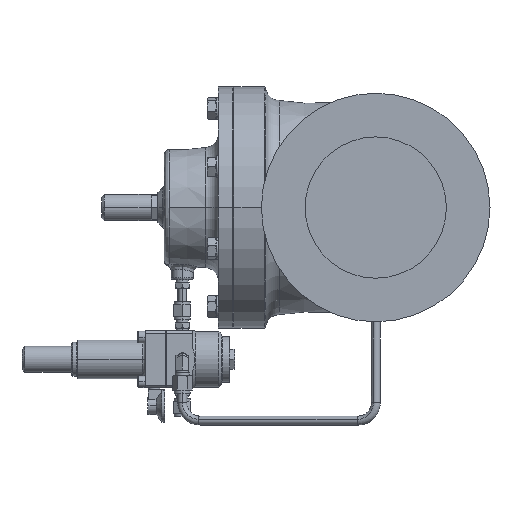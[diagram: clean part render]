
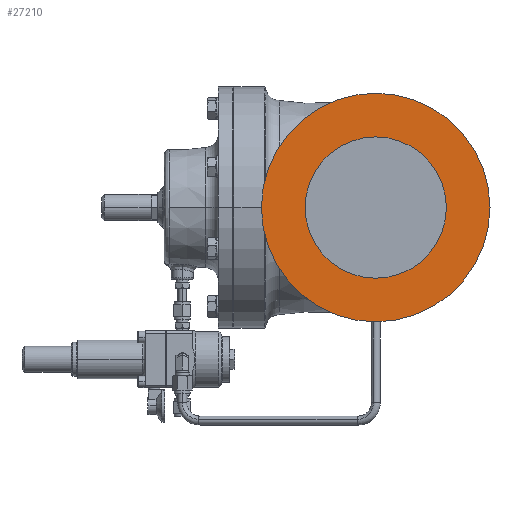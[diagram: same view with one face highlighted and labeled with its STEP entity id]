
A CAD part, left-side view. The second image highlights one B-rep face of the part: STEP entity #27210.
In plain terms, the highlighted planar face has unit normal (-1, 0, 0).
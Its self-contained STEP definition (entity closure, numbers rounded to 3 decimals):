
#5785=CARTESIAN_POINT('',(-182.55,-109.,0.));
#5786=DIRECTION('',(1.,0.,0.));
#5787=DIRECTION('',(0.,1.,0.));
#5788=AXIS2_PLACEMENT_3D('',#5785,#5786,#5787);
#5790=CARTESIAN_POINT('',(-182.55,-109.,0.));
#5791=DIRECTION('',(1.,0.,0.));
#5792=DIRECTION('',(0.,-1.,0.));
#5793=AXIS2_PLACEMENT_3D('',#5790,#5791,#5792);
#5795=CARTESIAN_POINT('',(-182.55,-109.,0.));
#5796=DIRECTION('',(-1.,0.,0.));
#5797=DIRECTION('',(0.,1.,0.));
#5798=AXIS2_PLACEMENT_3D('',#5795,#5796,#5797);
#5800=CARTESIAN_POINT('',(-182.55,-109.,0.));
#5801=DIRECTION('',(-1.,0.,0.));
#5802=DIRECTION('',(0.,-1.,0.));
#5803=AXIS2_PLACEMENT_3D('',#5800,#5801,#5802);
#21692=CARTESIAN_POINT('',(-182.55,-236.,0.));
#21693=VERTEX_POINT('',#21692);
#21694=CARTESIAN_POINT('',(-182.55,18.,0.));
#21695=VERTEX_POINT('',#21694);
#21696=CARTESIAN_POINT('',(-182.55,-30.5,0.));
#21697=CARTESIAN_POINT('',(-182.55,-187.5,0.));
#21698=VERTEX_POINT('',#21696);
#21699=VERTEX_POINT('',#21697);
#27195=CARTESIAN_POINT('',(-182.55,-109.,0.));
#27196=DIRECTION('',(1.,0.,0.));
#27197=DIRECTION('',(0.,1.,0.));
#27198=AXIS2_PLACEMENT_3D('',#27195,#27196,#27197);
#27199=PLANE('',#27198);
#27200=ORIENTED_EDGE('',*,*,#27175,.T.);
#27201=ORIENTED_EDGE('',*,*,#27189,.T.);
#27202=EDGE_LOOP('',(#27200,#27201));
#27203=FACE_OUTER_BOUND('',#27202,.F.);
#27205=ORIENTED_EDGE('',*,*,#27204,.T.);
#27207=ORIENTED_EDGE('',*,*,#27206,.T.);
#27208=EDGE_LOOP('',(#27205,#27207));
#27209=FACE_BOUND('',#27208,.F.);
#27210=ADVANCED_FACE('',(#27203,#27209),#27199,.F.);
#5789=CIRCLE('',#5788,127.);
#5794=CIRCLE('',#5793,127.);
#5799=CIRCLE('',#5798,78.5);
#5804=CIRCLE('',#5803,78.5);
#27175=EDGE_CURVE('',#21695,#21693,#5789,.T.);
#27189=EDGE_CURVE('',#21693,#21695,#5794,.T.);
#27204=EDGE_CURVE('',#21698,#21699,#5799,.T.);
#27206=EDGE_CURVE('',#21699,#21698,#5804,.T.);
